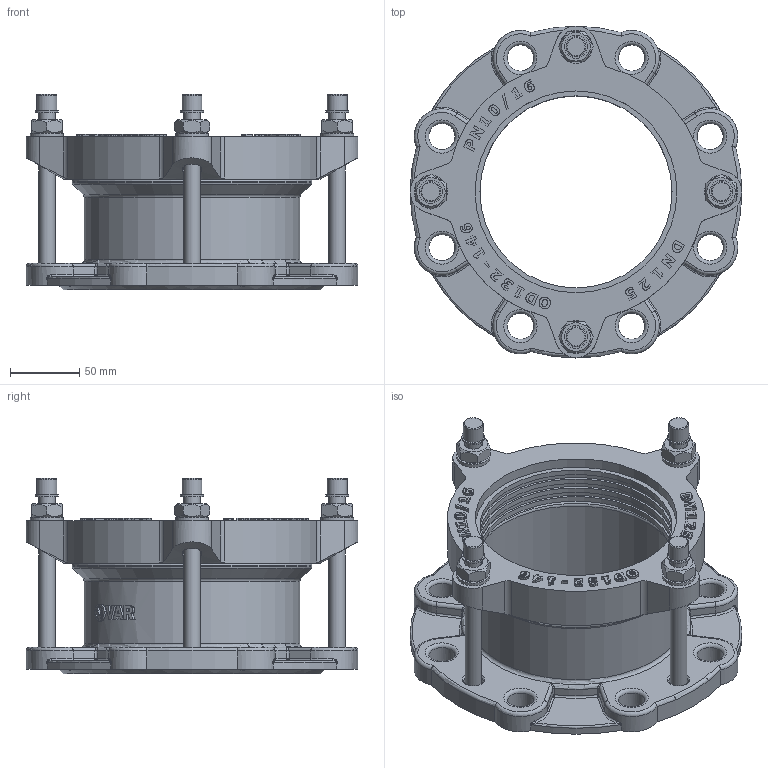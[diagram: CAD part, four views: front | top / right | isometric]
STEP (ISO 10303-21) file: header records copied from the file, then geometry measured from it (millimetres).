
FILE_DESCRIPTION(('STEP AP203'), '1');
FILE_NAME('Ôëàíöåâûé àäàïòåð', '', ('UNSPECIFIED'), ('UNSPECIFIED'), 'C3D Converter', 'C3D Toolkit', '');
FILE_SCHEMA(('CONFIG_CONTROL_DESIGN'));
Length unit declared in the file: millimetre
Assembly tree (19 placements, depth 2):
  (unnamed)
    (unnamed)
    (unnamed)  x4
    (unnamed)  x4
    (unnamed)  x4
    (unnamed)  x4
    (unnamed)
    (unnamed)
Bounding box: 240 x 240 x 141.2 mm (x, y, z)
Volume: 1060104.4 mm3; surface area: 308122 mm2
Topology: 19 solids, 19 shells, 1019 faces, 2590 edges, 1610 vertices
Faces by surface type: plane 358, extrusion 300, cylinder 202, torus 71, cone 32, bspline 32, sphere 24
Full cylindrical faces by diameter (mm): 12 x12, 12.253 x1, 13 x4, 14 x8, 14.4 x4, 16.8 x4, 19 x8, 24 x4, 139 x5, 142.5 x3, 146 x2, 151 x1, 156 x2, 173.5 x1, 176 x2
Entity records: 39836 total; most frequent: CARTESIAN_POINT 14762, ORIENTED_EDGE 4450, DIRECTION 3439, EDGE_CURVE 2225, VERTEX_POINT 1454, VECTOR 1311, AXIS2_PLACEMENT_3D 1064, EDGE_LOOP 1061
